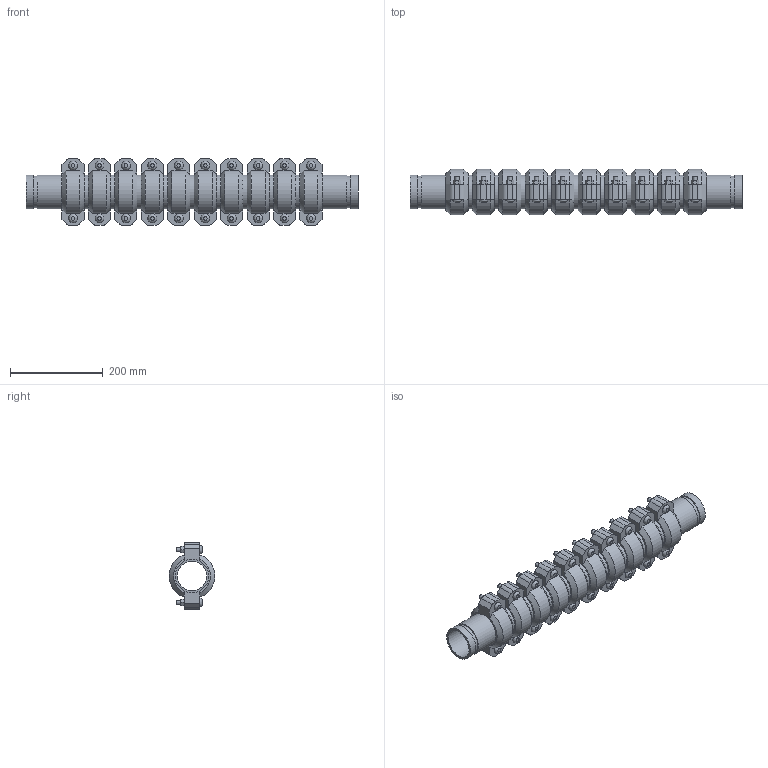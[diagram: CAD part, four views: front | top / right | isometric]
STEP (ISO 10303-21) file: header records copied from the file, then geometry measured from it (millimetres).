
FILE_DESCRIPTION(/* description */ ('VIC EXPANSION JOINT 10 COUPLINGS COMPRESSED STYLE 155 (OGS)','CAx-IF Rec.Pracs.---Representation and Presentation of Product Manufacturing Information (PMI)---4.0---2014-10-13'),/* implementation_level */ '2;1');
FILE_NAME(/* name */ 'C:\Users\kkamble\AppData\Roaming\Autodesk\ApplicationPlugins\Victaulic.Temp\A539\Victaulic_IPS_Expansion Joint_Compressed_10 Couplings_Style 155 (OGS)_2.5 (65).stp',/* time_stamp */ '2021-06-27T00:16:28+02:00',/* author */ ('kkamble'),/* organization */ ('Victaulic'),/* preprocessor_version */ 'ST-DEVELOPER v17.2',/* originating_system */ 'Autodesk Inventor 2019',/* authorisation */ '');
FILE_SCHEMA (('AP242_MANAGED_MODEL_BASED_3D_ENGINEERING_MIM_LF { 1 0 10303 442 1 1 4 }'));
Length unit declared in the file: inch
Products named in the file (4): 155-02.5; Nipple-02.5; Nipple-02.5_1; 075-02.5
Assembly tree (21 placements, depth 2):
  155-02.5
    Nipple-02.5  x2
    Nipple-02.5_1  x9
    075-02.5  x10
Bounding box: 717.55 x 98.22 x 144.27 mm (x, y, z)
Volume: 2803264.4 mm3; surface area: 774042.5 mm2
Topology: 21 solids, 41 shells, 662 faces, 1600 edges, 1124 vertices
Faces by surface type: plane 406, cylinder 196, cone 40, bspline 20
Full cylindrical faces by diameter (mm): 9.525 x40, 11.43 x20, 63.475 x11, 69.088 x22, 73.025 x43
Entity records: 2787 total; most frequent: CARTESIAN_POINT 491, DIRECTION 467, ORIENTED_EDGE 374, AXIS2_PLACEMENT_3D 188, EDGE_CURVE 187, VERTEX_POINT 134, EDGE_LOOP 101, LINE 91
